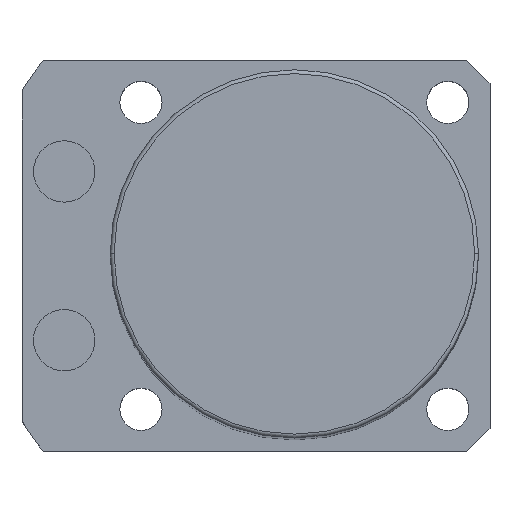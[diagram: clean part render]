
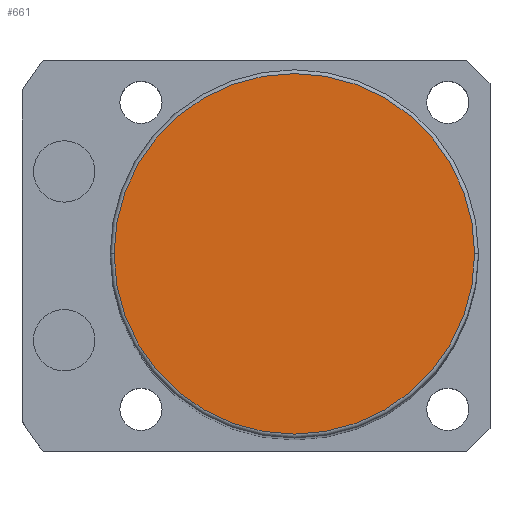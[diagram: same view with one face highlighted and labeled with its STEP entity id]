
A CAD part, top view. The second image highlights one B-rep face of the part: STEP entity #661.
In plain terms, the highlighted planar face has unit normal (0, 0, 1).
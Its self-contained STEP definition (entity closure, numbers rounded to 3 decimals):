
#2 = ORIENTED_EDGE ( 'NONE', *, *, #2405, .T. ) ;
#9 = AXIS2_PLACEMENT_3D ( 'NONE', #1100, #1767, #70 ) ;
#70 = DIRECTION ( 'NONE',  ( 1., 0., 0. ) ) ;
#334 = AXIS2_PLACEMENT_3D ( 'NONE', #1378, #1583, #344 ) ;
#344 = DIRECTION ( 'NONE',  ( 1., 0., 0. ) ) ;
#354 = CIRCLE ( 'NONE', #2663, 23.5 ) ;
#560 = EDGE_CURVE ( 'NONE', #2519, #1743, #1659, .T. ) ;
#604 = DIRECTION ( 'NONE',  ( 1., 0., 0. ) ) ;
#661 = ADVANCED_FACE ( 'NONE', ( #1134 ), #2645, .T. ) ;
#1100 = CARTESIAN_POINT ( 'NONE',  ( 0., 0., 161. ) ) ;
#1134 = FACE_OUTER_BOUND ( 'NONE', #1877, .T. ) ;
#1288 = ORIENTED_EDGE ( 'NONE', *, *, #560, .T. ) ;
#1378 = CARTESIAN_POINT ( 'NONE',  ( 0., 0., 161. ) ) ;
#1583 = DIRECTION ( 'NONE',  ( 0., 0., 1. ) ) ;
#1646 = CARTESIAN_POINT ( 'NONE',  ( 23.5, 0., 161. ) ) ;
#1659 = CIRCLE ( 'NONE', #9, 23.5 ) ;
#1743 = VERTEX_POINT ( 'NONE', #1646 ) ;
#1767 = DIRECTION ( 'NONE',  ( 0., 0., 1. ) ) ;
#1877 = EDGE_LOOP ( 'NONE', ( #2, #1288 ) ) ;
#2304 = CARTESIAN_POINT ( 'NONE',  ( 0., 0., 161. ) ) ;
#2405 = EDGE_CURVE ( 'NONE', #1743, #2519, #354, .T. ) ;
#2519 = VERTEX_POINT ( 'NONE', #2582 ) ;
#2582 = CARTESIAN_POINT ( 'NONE',  ( -23.5, 0., 161. ) ) ;
#2645 = PLANE ( 'NONE',  #334 ) ;
#2663 = AXIS2_PLACEMENT_3D ( 'NONE', #2304, #2726, #604 ) ;
#2726 = DIRECTION ( 'NONE',  ( 0., 0., 1. ) ) ;
